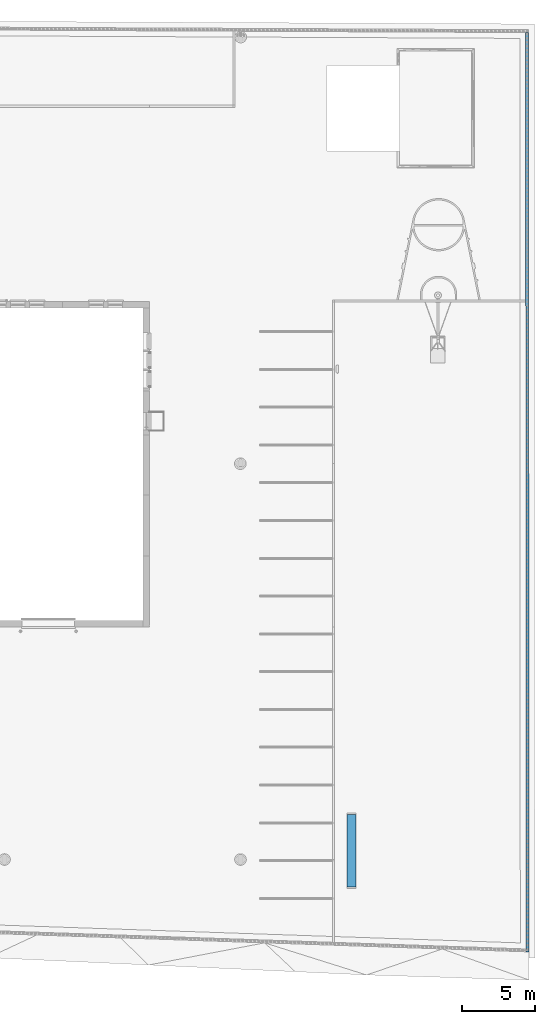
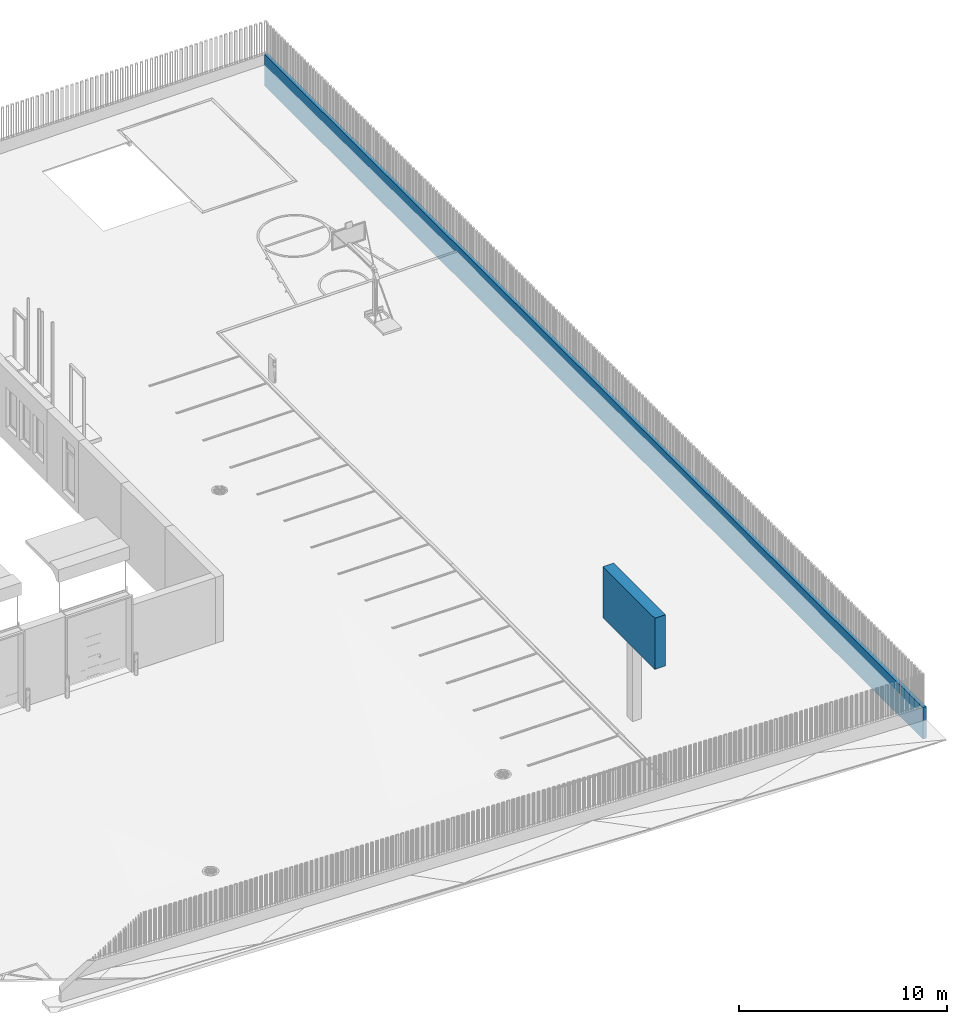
# One storey, part 35 of 77: 2 walls.
"""IFC2X3 building model written with IfcOpenShell, lengths in millimetres."""

from ifc_helpers import new_model, entity, si_unit, converted_unit, derived_unit, direction, frame, frame_2d, origin, place, context, subcontext, project, spatial, polyline, rectangle, outline, extrude, material, layer, layer_set, layer_usage, type_object, element, save


model = new_model("IFC2X3")

# Units and contexts
model_context = context("Model", 3, precision=0.01, world=origin(), true_north=direction((6.12303176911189e-17, 1.0)))
body_context = subcontext(model_context, "Body", "Model", "MODEL_VIEW")
ifc_project = project(units=[si_unit("LENGTHUNIT", "METRE", prefix="MILLI"), si_unit("AREAUNIT", "SQUARE_METRE"), si_unit("VOLUMEUNIT", "CUBIC_METRE"), converted_unit("PLANEANGLEUNIT", "DEGREE", entity("IfcRatioMeasure", 0.0174532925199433), si_unit("PLANEANGLEUNIT", "RADIAN"), dimensions=[0, 0, 0, 0, 0, 0, 0]), si_unit("MASSUNIT", "GRAM", prefix="KILO"), derived_unit("MASSDENSITYUNIT", [(si_unit("MASSUNIT", "GRAM", prefix="KILO"), 1), (si_unit("LENGTHUNIT", "METRE"), -3)]), si_unit("TIMEUNIT", "SECOND"), si_unit("FREQUENCYUNIT", "HERTZ"), si_unit("THERMODYNAMICTEMPERATUREUNIT", "DEGREE_CELSIUS"), derived_unit("THERMALTRANSMITTANCEUNIT", [(si_unit("MASSUNIT", "GRAM", prefix="KILO"), 1), (si_unit("THERMODYNAMICTEMPERATUREUNIT", "KELVIN"), -1), (si_unit("TIMEUNIT", "SECOND"), -3)]), derived_unit("VOLUMETRICFLOWRATEUNIT", [(si_unit("LENGTHUNIT", "METRE"), 3), (si_unit("TIMEUNIT", "SECOND"), -1)]), si_unit("ELECTRICCURRENTUNIT", "AMPERE"), si_unit("ELECTRICVOLTAGEUNIT", "VOLT"), si_unit("POWERUNIT", "WATT"), si_unit("FORCEUNIT", "NEWTON", prefix="KILO"), si_unit("ILLUMINANCEUNIT", "LUX"), si_unit("LUMINOUSFLUXUNIT", "LUMEN"), si_unit("LUMINOUSINTENSITYUNIT", "CANDELA"), derived_unit("USERDEFINED", [(si_unit("MASSUNIT", "GRAM", prefix="KILO"), -1), (si_unit("LENGTHUNIT", "METRE"), -2), (si_unit("TIMEUNIT", "SECOND"), 3), (si_unit("LUMINOUSFLUXUNIT", "LUMEN"), 1)]), derived_unit("LINEARVELOCITYUNIT", [(si_unit("LENGTHUNIT", "METRE"), 1), (si_unit("TIMEUNIT", "SECOND"), -1)]), si_unit("PRESSUREUNIT", "PASCAL"), derived_unit("USERDEFINED", [(si_unit("LENGTHUNIT", "METRE"), -2), (si_unit("MASSUNIT", "GRAM", prefix="KILO"), 1), (si_unit("TIMEUNIT", "SECOND"), -2)])], contexts=[model_context])

# Site, building, storey
site_placement = place(None, origin())
site = spatial("IfcSite", under=ifc_project, at=site_placement, Name="Default", CompositionType="ELEMENT")
building_placement = place(site_placement, origin())
building = spatial("IfcBuilding", under=site, at=building_placement, CompositionType="ELEMENT")
storey_placement = place(building_placement, origin())
storey = spatial("IfcBuildingStorey", under=building, at=storey_placement, Name="1. KORRUS", CompositionType="ELEMENT", Elevation=0.0)

# Walls
ifc_material_1 = material(Name="aia r/b sokkel")
ifc_layer_1 = layer(ifc_material_1, 200.0)
ifc_layer_set_1 = layer_set([ifc_layer_1], Name="Basic Wall:Aed")
ifc_layer_usage_1 = layer_usage(ifc_layer_set_1, "AXIS2", "NEGATIVE", 100.0)
wall_type_1 = type_object("IfcWallType", Name="Basic Wall:Aed", PredefinedType="STANDARD", material=ifc_layer_set_1)
wall_1_placement = place(storey_placement, frame((65935.6667160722, 40445.5612568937, -1300.0), z_axis=(0.0, 0.0, 1.0), x_axis=(0.000555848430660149, -0.999999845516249, 0.0)))
element("IfcWallStandardCase", 1, at=wall_1_placement, inside=storey, type_object=wall_type_1, material=ifc_layer_usage_1, Name="Basic Wall:Aed", ObjectType="Basic Wall:Aed", context=body_context, shape_type="SweptSolid", body=[
    extrude(outline(polyline([(63249.1037345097, -100.0), (63256.069080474, 100.0), (1.05376875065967, 100.0), (0.0, -100.0), (63048.9824811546, -100.0), (63249.1037345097, -100.0)])), origin(), (0.0, 0.0, 1.0), 1850.0),
])
ifc_material_2 = material(Name="ekraan")
ifc_layer_2 = layer(ifc_material_2, 600.0)
ifc_layer_set_2 = layer_set([ifc_layer_2], Name="Basic Wall:ekraan")
ifc_layer_usage_2 = layer_usage(ifc_layer_set_2, "AXIS2", "NEGATIVE", 300.0)
wall_type_2 = type_object("IfcWallType", Name="Basic Wall:ekraan", PredefinedType="STANDARD", material=ifc_layer_set_2)
wall_2_placement = place(storey_placement, frame((53861.8450151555, -13344.3674628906, 4400.0), z_axis=(0.0, 0.0, 1.0), x_axis=(0.0, -1.0, 0.0)))
element("IfcWallStandardCase", 2, at=wall_2_placement, inside=storey, type_object=wall_type_2, material=ifc_layer_usage_2, Name="Basic Wall:ekraan", ObjectType="Basic Wall:ekraan", context=body_context, shape_type="SweptSolid", body=[
    extrude(rectangle(XDim=5000.0, YDim=600.000000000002, at=frame_2d((2500.0, 1.93267624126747e-12), x_axis=(-1.0, 0.0))), origin(), (0.0, 0.0, 1.0), 3000.0),
])

save(model, "model.ifc")
